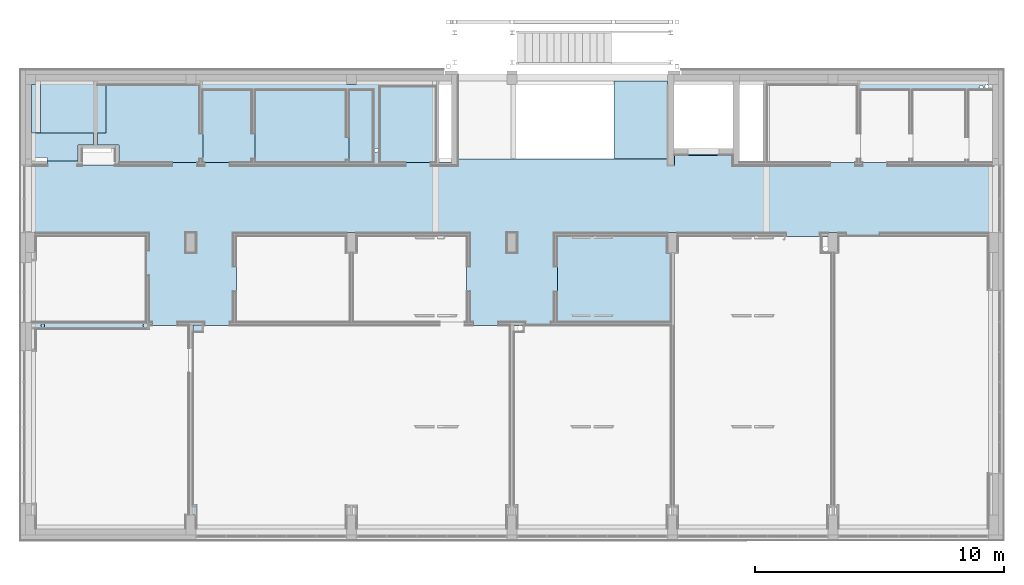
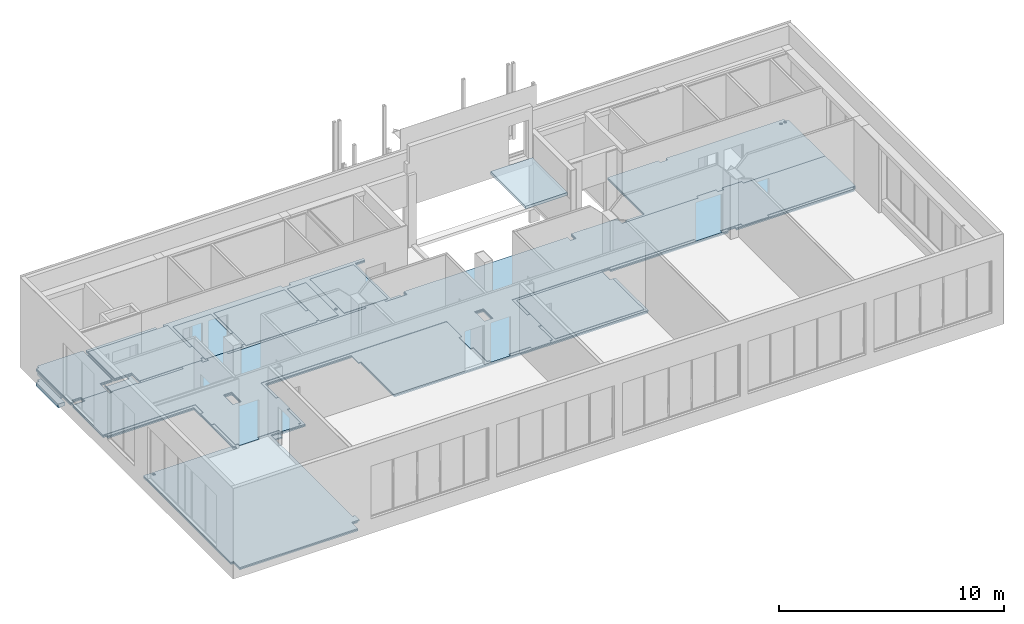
# One storey, part 14 of 29: 13 slabs, 2 openings.
"""IFC2X3 building model written with IfcOpenShell, lengths in centimetres."""

from ifc_helpers import new_model, entity, si_unit, converted_unit, derived_unit, direction, frame, frame_2d, origin, origin_2d_with_axis, place, context, subcontext, project, spatial, polyline, circle_curve, parameter, trimmed, segment, composite_curve, rectangle, outline, extrude, material, layer, layer_set, layer_usage, type_object, element, save


model = new_model("IFC2X3")

# Units and contexts
model_context = context("Model", 3, precision=0.001, world=origin(), true_north=direction((6.12303176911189e-17, 1.0)))
body_context = subcontext(model_context, "Body", "Model", "MODEL_VIEW")
ifc_project = project(units=[si_unit("LENGTHUNIT", "METRE", prefix="CENTI"), si_unit("AREAUNIT", "SQUARE_METRE"), si_unit("VOLUMEUNIT", "CUBIC_METRE"), converted_unit("PLANEANGLEUNIT", "DEGREE", entity("IfcRatioMeasure", 0.0174532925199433), si_unit("PLANEANGLEUNIT", "RADIAN"), dimensions=[0, 0, 0, 0, 0, 0, 0]), si_unit("MASSUNIT", "GRAM", prefix="KILO"), derived_unit("MASSDENSITYUNIT", [(si_unit("MASSUNIT", "GRAM", prefix="KILO"), 1), (si_unit("LENGTHUNIT", "METRE"), -3)]), derived_unit("MOMENTOFINERTIAUNIT", [(si_unit("LENGTHUNIT", "METRE"), 4)]), si_unit("TIMEUNIT", "SECOND"), si_unit("FREQUENCYUNIT", "HERTZ"), si_unit("THERMODYNAMICTEMPERATUREUNIT", "DEGREE_CELSIUS"), derived_unit("THERMALTRANSMITTANCEUNIT", [(si_unit("MASSUNIT", "GRAM", prefix="KILO"), 1), (si_unit("THERMODYNAMICTEMPERATUREUNIT", "KELVIN"), -1), (si_unit("TIMEUNIT", "SECOND"), -3)]), derived_unit("VOLUMETRICFLOWRATEUNIT", [(si_unit("LENGTHUNIT", "METRE"), 3), (si_unit("TIMEUNIT", "SECOND"), -1)]), si_unit("ELECTRICCURRENTUNIT", "AMPERE"), si_unit("ELECTRICVOLTAGEUNIT", "VOLT"), si_unit("POWERUNIT", "WATT"), si_unit("FORCEUNIT", "NEWTON", prefix="KILO"), si_unit("ILLUMINANCEUNIT", "LUX"), si_unit("LUMINOUSFLUXUNIT", "LUMEN"), si_unit("LUMINOUSINTENSITYUNIT", "CANDELA"), derived_unit("USERDEFINED", [(si_unit("MASSUNIT", "GRAM", prefix="KILO"), -1), (si_unit("LENGTHUNIT", "METRE"), -2), (si_unit("TIMEUNIT", "SECOND"), 3), (si_unit("LUMINOUSFLUXUNIT", "LUMEN"), 1)]), derived_unit("LINEARVELOCITYUNIT", [(si_unit("LENGTHUNIT", "METRE"), 1), (si_unit("TIMEUNIT", "SECOND"), -1)]), si_unit("PRESSUREUNIT", "PASCAL"), derived_unit("USERDEFINED", [(si_unit("LENGTHUNIT", "METRE"), -2), (si_unit("MASSUNIT", "GRAM", prefix="KILO"), 1), (si_unit("TIMEUNIT", "SECOND"), -2)]), derived_unit("LINEARFORCEUNIT", [(si_unit("MASSUNIT", "GRAM", prefix="KILO"), 1), (si_unit("LENGTHUNIT", "METRE"), 1), (si_unit("TIMEUNIT", "SECOND"), -2), (si_unit("LENGTHUNIT", "METRE"), -1)]), derived_unit("PLANARFORCEUNIT", [(si_unit("MASSUNIT", "GRAM", prefix="KILO"), 1), (si_unit("LENGTHUNIT", "METRE"), 1), (si_unit("TIMEUNIT", "SECOND"), -2), (si_unit("LENGTHUNIT", "METRE"), -2)])], contexts=[model_context])

# Site, building, storey
site_placement = place(None, origin())
site = spatial("IfcSite", under=ifc_project, at=site_placement, Name="Default", CompositionType="ELEMENT")
building_placement = place(site_placement, origin())
building = spatial("IfcBuilding", under=site, at=building_placement, CompositionType="ELEMENT")
storey_placement = place(building_placement, frame((0.0, 0.0, 545.0)))
storey = spatial("IfcBuildingStorey", under=building, at=storey_placement, Name="Poziom 1K +5,45", CompositionType="ELEMENT", Elevation=544.999999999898)

# Slabs
ifc_material_1 = material(Name="_Beton, C25/30")
ifc_layer_1 = layer(ifc_material_1, 15.0)
ifc_layer_set_1 = layer_set([ifc_layer_1], Name="Strop:Spocznik gr. 15cm")
ifc_layer_usage_1 = layer_usage(ifc_layer_set_1, "AXIS3", "POSITIVE", 0.0)
slab_type_1 = type_object("IfcSlabType", Name="Strop:Spocznik gr. 15cm", PredefinedType="FLOOR", material=ifc_layer_set_1)
slab_1_placement = place(storey_placement, origin())
element("IfcSlab", 1, at=slab_1_placement, inside=storey, type_object=slab_type_1, material=ifc_layer_usage_1, Name="Strop:Spocznik gr. 15cm", ObjectType="Strop:Spocznik gr. 15cm", PredefinedType="FLOOR", context=body_context, shape_type="SweptSolid", body=[
    extrude(rectangle(XDim=312.000000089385, YDim=215.0, at=frame_2d((0.0, 5.6843418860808e-14), x_axis=(1.0, 0.0))), frame((-461.765111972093, 1924.12745205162, 256.0), z_axis=(0.0, 0.0, -1.0), x_axis=(0.0, 1.0, 0.0)), (0.0, 0.0, 1.0), 15.0000000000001),
])
ifc_material_2 = material(Name="Styropian akustyczny")
ifc_layer_2 = layer(ifc_material_2, 7.0)
ifc_layer_set_2 = layer_set([ifc_layer_2], Name="Strop:EPS 80 7 cm")
ifc_layer_usage_2 = layer_usage(ifc_layer_set_2, "AXIS3", "POSITIVE", 0.0)
slab_type_2 = type_object("IfcSlabType", Name="Strop:EPS 80 7 cm", PredefinedType="FLOOR", material=ifc_layer_set_2)
slab_2_placement = place(storey_placement, origin())
element("IfcSlab", 2, at=slab_2_placement, inside=storey, type_object=slab_type_2, material=ifc_layer_usage_2, Name="Strop:EPS 80 7 cm", ObjectType="Strop:EPS 80 7 cm", PredefinedType="FLOOR", context=body_context, shape_type="SweptSolid", body=[
    extrude(outline(polyline([(1382.32696087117, -488.961197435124), (1397.32696087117, -488.961197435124), (1397.32696087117, -181.961196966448), (1382.32695262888, -181.961196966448), (1382.32695262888, -196.961197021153), (1335.82697165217, -196.961197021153), (1335.82697165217, -166.961197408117), (1397.32696087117, -166.961197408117), (1397.32696087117, 106.038802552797), (1382.32696087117, 106.038802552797), (1382.32696087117, 121.038802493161), (939.826218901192, 121.038802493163), (939.826218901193, 464.038802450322), (1397.32695811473, 464.03880245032), (1397.32695811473, 1241.03859703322), (1382.3269601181, 1241.03859703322), (1382.3269601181, 1296.03859703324), (777.326960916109, 1296.03859703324), (777.326960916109, 1241.03859703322), (747.326974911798, 1241.03859703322), (747.326974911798, 1203.59006927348), (749.826974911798, 1203.59006927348), (749.826974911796, 504.038802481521), (747.326974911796, 504.038802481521), (747.326974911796, 506.538802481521), (707.326969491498, 506.538802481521), (707.326969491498, 479.038802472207), (574.8269695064, 479.038802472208), (574.8269695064, 121.038802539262), (132.326963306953, 121.038802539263), (132.326963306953, 106.038802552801), (92.3269633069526, 106.038802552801), (92.3269633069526, 186.038802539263), (119.826974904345, 186.038802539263), (119.826974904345, 479.03880247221), (-1182.67302601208, 479.03880247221), (-1182.67302601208, 186.038802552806), (-1157.67303668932, 186.038802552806), (-1157.67303668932, 106.038802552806), (-1197.67303668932, 106.038802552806), (-1197.67303668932, 121.038802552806), (-1802.67303670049, 121.038802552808), (-1802.67303670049, 106.038802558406), (-1842.67303670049, 106.038802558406), (-1842.67303670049, 121.038802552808), (-2447.67304030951, 121.03880255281), (-2447.67304030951, 106.03880255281), (-2462.67302871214, 106.03880255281), (-2462.67304030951, -488.961197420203), (-2447.67303915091, -488.961197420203), (-2447.67303915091, -503.961195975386), (-1842.67303670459, -503.961195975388), (-1842.67303670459, -488.961197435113), (-1802.67303670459, -488.961197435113), (-1802.67303670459, -503.961197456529), (-1542.17303486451, -503.961197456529), (-1542.17303486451, -174.461197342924), (-1446.17315678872, -174.461197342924), (-1446.17315678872, -164.461197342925), (-1421.17303127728, -164.461197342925), (-1421.17303127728, -207.525937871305), (-1182.67303373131, -207.525937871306), (-1182.67303373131, -164.461197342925), (-1157.67303373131, -164.461197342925), (-1157.67303373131, -189.461197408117), (-315.173052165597, -189.46119740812), (-315.173052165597, -166.96119742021), (-290.173056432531, -166.96119742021), (-290.173056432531, -176.96119742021), (-239.174264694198, -176.96119742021), (-239.174264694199, -488.96119742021), (-290.173052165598, -488.96119742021), (-290.173052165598, -503.96119742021), (92.3269632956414, -503.961197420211), (92.3269632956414, -488.961197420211), (132.326968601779, -488.961197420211), (132.326968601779, -503.961197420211), (737.326966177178, -503.961197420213), (737.326966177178, -488.961197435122), (777.326963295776, -488.961197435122), (777.326963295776, -503.961197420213), (1133.32695882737, -503.961197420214), (1133.32695882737, -246.961196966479), (1045.82695875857, -246.961196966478), (1045.82695875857, -166.964845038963), (1060.82695875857, -166.964845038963), (1060.82695875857, -231.96119695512), (1078.32696200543, -231.96119695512), (1078.32696200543, -216.961196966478), (1193.32695876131, -216.961196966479), (1193.32695876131, -231.961196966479), (1195.82695876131, -231.961196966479), (1195.82695876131, -166.961197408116), (1210.82695876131, -166.961197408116), (1210.82695876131, -246.961196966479), (1148.32695882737, -246.961196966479), (1148.32695882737, -503.961197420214), (1382.32696087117, -503.961197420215), (1382.32696087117, -488.961197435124)]), holes=[polyline([(-552.673036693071, 106.038802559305), (-552.673036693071, 186.038802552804), (-512.673026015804, 186.038802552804), (-512.673026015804, 106.038802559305), (-552.673036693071, 106.038802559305)]), polyline([(737.326974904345, 106.038802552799), (737.326974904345, 186.038802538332), (777.326958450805, 186.038802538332), (777.326958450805, 106.038802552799), (737.326974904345, 106.038802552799)]), composite_curve([segment(trimmed(circle_curve(frame_2d((222.326974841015, -481.461197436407), x_axis=(-1.0, 0.0)), 7.50000000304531), [parameter(180.0)], [parameter(0.0)], True, "PARAMETER"), False, "CONTINUOUS"), segment(trimmed(circle_curve(frame_2d((222.326974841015, -481.461197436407), x_axis=(-1.0, 0.0)), 7.50000000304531), [parameter(0.0)], [parameter(180.0)], True, "PARAMETER"), False, "CONTINUOUS")], self_intersect=False), composite_curve([segment(trimmed(circle_curve(frame_2d((12.3269717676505, -224.46119741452), x_axis=(-1.0, 0.0)), 7.50000000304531), [parameter(180.0)], [parameter(0.0)], True, "PARAMETER"), False, "CONTINUOUS"), segment(trimmed(circle_curve(frame_2d((12.3269717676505, -224.46119741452), x_axis=(-1.0, 0.0)), 7.50000000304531), [parameter(0.0)], [parameter(180.0)], True, "PARAMETER"), False, "CONTINUOUS")], self_intersect=False), composite_curve([segment(trimmed(circle_curve(frame_2d((-2440.17302516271, -481.461197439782), x_axis=(-1.0, 0.0)), 7.49999998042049), [parameter(180.0)], [parameter(0.0)], True, "PARAMETER"), False, "CONTINUOUS"), segment(trimmed(circle_curve(frame_2d((-2440.17302516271, -481.461197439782), x_axis=(-1.0, 0.0)), 7.49999998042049), [parameter(0.0)], [parameter(180.0)], True, "PARAMETER"), False, "CONTINUOUS")], self_intersect=False), composite_curve([segment(trimmed(circle_curve(frame_2d((-2417.71800819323, -478.915202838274), x_axis=(-1.0, 0.0)), 7.49999998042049), [parameter(180.0)], [parameter(0.0)], True, "PARAMETER"), False, "CONTINUOUS"), segment(trimmed(circle_curve(frame_2d((-2417.71800819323, -478.915202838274), x_axis=(-1.0, 0.0)), 7.49999998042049), [parameter(0.0)], [parameter(180.0)], True, "PARAMETER"), False, "CONTINUOUS")], self_intersect=False)]), frame((-1511.9381457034, 1576.16625463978, 0.0), z_axis=(0.0, 0.0, 1.0), x_axis=(-1.0, 0.0, 0.0)), (0.0, 0.0, 1.0), 7.00000000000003),
])
ifc_material_3 = material(Name="Wylewka")
ifc_layer_3 = layer(ifc_material_3, 6.0)
ifc_layer_set_3 = layer_set([ifc_layer_3], Name="Strop:Wylewka betonowa gr. 6cm")
ifc_layer_usage_3 = layer_usage(ifc_layer_set_3, "AXIS3", "POSITIVE", 0.0)
slab_type_3 = type_object("IfcSlabType", Name="Strop:Wylewka betonowa gr. 6cm", PredefinedType="FLOOR", material=ifc_layer_set_3)
slab_3_placement = place(storey_placement, origin())
element("IfcSlab", 3, at=slab_3_placement, inside=storey, type_object=slab_type_3, material=ifc_layer_usage_3, Name="Strop:Wylewka betonowa gr. 6cm", ObjectType="Strop:Wylewka betonowa gr. 6cm", PredefinedType="FLOOR", context=body_context, shape_type="SweptSolid", body=[
    extrude(outline(polyline([(1382.64765951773, -517.87108891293), (1397.64765951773, -517.87108891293), (1397.64765951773, -210.871088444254), (1382.64765127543, -210.871088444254), (1382.64765127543, -225.871088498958), (1336.14767029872, -225.871088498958), (1336.14767029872, -195.871088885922), (1397.64765951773, -195.871088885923), (1397.64765951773, 77.1289110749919), (1382.64765951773, 77.1289110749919), (1382.64765951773, 92.1289110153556), (940.14691754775, 92.1289110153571), (940.14691754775, 435.128910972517), (1397.64765676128, 435.128910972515), (1397.64765676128, 1212.12870555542), (1382.64765876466, 1212.12870555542), (1382.64765876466, 1267.12870555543), (777.647659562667, 1267.12870555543), (777.647659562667, 1212.12870555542), (737.647673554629, 1212.12870555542), (737.647673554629, 1172.12891110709), (747.647673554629, 1172.12891110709), (747.647673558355, 1174.68017779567), (750.147673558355, 1174.68017779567), (750.147673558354, 447.628910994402), (715.147668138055, 447.628910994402), (715.147668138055, 450.128911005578), (575.147668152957, 450.128911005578), (575.147668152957, 92.1289110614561), (132.647673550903, 92.1289110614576), (132.647673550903, 157.128911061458), (120.147673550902, 157.128911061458), (120.147673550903, 450.128911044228), (-1184.85232644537, 450.128911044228), (-1184.85232644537, 157.128911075), (-1157.35233804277, 157.128911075), (-1157.35233804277, 77.1289110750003), (-1197.35233804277, 77.1289110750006), (-1197.35233804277, 92.1289110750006), (-1802.35233805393, 92.1289110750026), (-1802.35233805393, 77.1289110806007), (-1842.35233805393, 77.1289110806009), (-1842.35233805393, 92.1289110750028), (-2447.35234166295, 92.1289110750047), (-2447.35234166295, 77.1289110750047), (-2462.35234166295, 77.1289110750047), (-2462.35234166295, -517.871088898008), (-2447.35233811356, -517.871088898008), (-2447.35233811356, -532.871087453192), (-1842.35233805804, -532.871087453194), (-1842.35233805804, -517.871088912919), (-1802.35233805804, -517.871088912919), (-1802.35233805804, -532.871087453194), (-1541.85245814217, -532.871087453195), (-1541.85245814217, -205.871088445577), (-1445.85245814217, -205.871088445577), (-1445.85245814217, -195.871088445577), (-1420.85233263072, -195.871088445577), (-1420.85233263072, -236.435829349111), (-1182.35233508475, -236.435829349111), (-1182.35233508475, -195.871087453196), (-1157.35233508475, -195.871087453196), (-1157.35233508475, -218.371088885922), (-314.85235351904, -218.371088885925), (-314.85235351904, -195.871088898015), (-289.852357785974, -195.871088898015), (-289.852357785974, -205.871088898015), (-238.853566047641, -205.871088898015), (-238.853566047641, -517.871088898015), (-289.852353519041, -517.871088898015), (-289.852353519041, -532.871088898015), (92.6476619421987, -532.871088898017), (92.6476619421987, -517.871088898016), (132.647667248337, -517.871088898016), (132.647667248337, -532.871088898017), (737.647661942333, -532.871088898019), (737.647661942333, -517.871088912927), (777.647661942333, -517.871088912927), (777.647661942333, -532.871088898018), (1133.64765747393, -532.87108889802), (1133.64765747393, -275.871088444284), (1046.14765740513, -275.871088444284), (1046.14765740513, -195.874736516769), (1061.14765740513, -195.874736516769), (1061.14765740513, -260.871088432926), (1078.64766065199, -260.871088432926), (1078.64766065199, -245.871088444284), (1193.64765740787, -245.871088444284), (1193.64765740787, -260.871088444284), (1196.14765740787, -260.871088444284), (1196.14765740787, -195.87108859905), (1211.14765740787, -195.87108859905), (1211.14765740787, -275.871088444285), (1148.64765747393, -275.871088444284), (1148.64765747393, -532.87108889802), (1382.64765951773, -532.871088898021), (1382.64765951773, -517.87108891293)]), holes=[composite_curve([segment(trimmed(circle_curve(frame_2d((-2417.27550324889, -507.927790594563), x_axis=(-1.0, 0.0)), 7.50000000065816), [parameter(180.0)], [parameter(0.0)], True, "PARAMETER"), False, "CONTINUOUS"), segment(trimmed(circle_curve(frame_2d((-2417.27550324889, -507.927790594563), x_axis=(-1.0, 0.0)), 7.50000000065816), [parameter(0.0)], [parameter(180.0)], True, "PARAMETER"), False, "CONTINUOUS")], self_intersect=False), composite_curve([segment(trimmed(circle_curve(frame_2d((940.14691754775, 450.128911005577), x_axis=(-1.0, 0.0)), 10.0), [parameter(180.0)], [parameter(0.0)], True, "PARAMETER"), False, "CONTINUOUS"), segment(trimmed(circle_curve(frame_2d((940.14691754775, 450.128911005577), x_axis=(-1.0, 0.0)), 10.0), [parameter(0.0)], [parameter(180.0)], True, "PARAMETER"), False, "CONTINUOUS")], self_intersect=False), composite_curve([segment(trimmed(circle_curve(frame_2d((1352.6999459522, 450.223891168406), x_axis=(-1.0, 0.0)), 7.49946160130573), [parameter(180.0)], [parameter(0.0)], True, "PARAMETER"), False, "CONTINUOUS"), segment(trimmed(circle_curve(frame_2d((1352.6999459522, 450.223891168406), x_axis=(-1.0, 0.0)), 7.49946160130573), [parameter(0.0)], [parameter(180.0)], True, "PARAMETER"), False, "CONTINUOUS")], self_intersect=False), composite_curve([segment(trimmed(circle_curve(frame_2d((12.6476704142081, -253.371088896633), x_axis=(-1.0, 0.0)), 7.50000000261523), [parameter(180.0)], [parameter(0.0)], True, "PARAMETER"), False, "CONTINUOUS"), segment(trimmed(circle_curve(frame_2d((12.6476704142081, -253.371088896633), x_axis=(-1.0, 0.0)), 7.50000000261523), [parameter(0.0)], [parameter(180.0)], True, "PARAMETER"), False, "CONTINUOUS")], self_intersect=False), composite_curve([segment(trimmed(circle_curve(frame_2d((-2439.85232651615, -510.371088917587), x_axis=(-1.0, 0.0)), 7.50000000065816), [parameter(180.0)], [parameter(0.0)], True, "PARAMETER"), False, "CONTINUOUS"), segment(trimmed(circle_curve(frame_2d((-2439.85232651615, -510.371088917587), x_axis=(-1.0, 0.0)), 7.50000000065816), [parameter(0.0)], [parameter(180.0)], True, "PARAMETER"), False, "CONTINUOUS")], self_intersect=False), polyline([(-552.352338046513, 77.1289110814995), (-552.352338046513, 157.128911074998), (-512.352327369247, 157.128911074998), (-512.352327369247, 77.1289110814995), (-552.352338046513, 77.1289110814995)]), polyline([(737.647673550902, 77.1289110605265), (737.647673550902, 157.128911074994), (777.647673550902, 157.128911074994), (777.647673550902, 77.1289110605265), (737.647673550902, 77.1289110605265)])]), frame((-1511.61744705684, 1547.25636316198, 7.0), z_axis=(0.0, 0.0, 1.0), x_axis=(-1.0, 0.0, 0.0)), (0.0, 0.0, 1.0), 6.00000000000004),
])
ifc_material_4 = material(Name="Wykladzina winylowa (w plytkach) na kleju")
ifc_layer_4 = layer(ifc_material_4, 2.0)
ifc_layer_set_4 = layer_set([ifc_layer_4], Name="Strop:Wykladzina winylowa (w plytkach) na kleju gr.2cm 2")
ifc_layer_usage_4 = layer_usage(ifc_layer_set_4, "AXIS3", "POSITIVE", 0.0)
slab_type_4 = type_object("IfcSlabType", Name="Strop:Wykladzina winylowa (w plytkach) na kleju gr.2cm 2", PredefinedType="FLOOR", material=ifc_layer_set_4)
slab_4_placement = place(storey_placement, origin())
element("IfcSlab", 4, at=slab_4_placement, inside=storey, type_object=slab_type_4, material=ifc_layer_usage_4, Name="Strop:Wykladzina winylowa (w plytkach) na kleju gr.2cm 2", ObjectType="Strop:Wykladzina winylowa (w plytkach) na kleju gr.2cm 2", PredefinedType="FLOOR", context=body_context, shape_type="SweptSolid", body=[
    extrude(outline(polyline([(-206.166666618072, -298.33333359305), (136.833333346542, -298.33333359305), (136.833333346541, 141.666672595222), (69.3333332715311, 141.666672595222), (69.3333332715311, 156.666660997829), (-206.166666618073, 156.666660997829), (-206.166666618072, -298.33333359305)])), frame((-498.431781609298, 1318.29411881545, 15.0), z_axis=(0.0, 0.0, -1.0), x_axis=(0.0, 1.0, 0.0)), (0.0, 0.0, 1.0), 1.99999999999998),
])
ifc_material_5 = material(Name="Gres jasny")
ifc_layer_5 = layer(ifc_material_5, 2.0)
ifc_layer_set_5 = layer_set([ifc_layer_5], Name="Strop:Gres na kleju gr. 2cm techniczne")
ifc_layer_usage_5 = layer_usage(ifc_layer_set_5, "AXIS3", "POSITIVE", 0.0)
slab_type_5 = type_object("IfcSlabType", Name="Strop:Gres na kleju gr. 2cm techniczne", PredefinedType="FLOOR")
slab_5_placement = place(storey_placement, frame((-2909.26510657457, 1743.12745160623, 13.0)))
element("IfcSlab", 5, at=slab_5_placement, inside=storey, type_object=slab_type_5, material=ifc_layer_usage_5, Name="Strop:Gres na kleju gr. 2cm techniczne", ObjectType="Strop:Gres na kleju gr. 2cm techniczne", PredefinedType="FLOOR", context=body_context, shape_type="SweptSolid", body=[
    extrude(outline(polyline([(-81.9999881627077, 168.500000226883), (-81.9999881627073, -88.5000000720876), (-19.5000010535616, -88.5000000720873), (-19.5000010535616, -153.500000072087), (105.500011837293, -153.500000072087), (105.500011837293, -138.500000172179), (151.999992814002, -138.500000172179), (151.999992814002, -153.500000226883), (167.0000010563, -153.500000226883), (167.0000010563, 153.500000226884), (152.000003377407, 153.500000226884), (152.000003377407, 168.500000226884), (-81.9999881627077, 168.500000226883)])), frame((167.0000010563, 168.500000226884, 2.0), z_axis=(0.0, 0.0, -1.0), x_axis=(-1.0, 0.0, 0.0)), (0.0, 0.0, 1.0), 1.99999999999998),
])

# Slab, openings
ifc_material_6 = material(Name="wykladzina pcv")
ifc_layer_6 = layer(ifc_material_6, 2.0)
ifc_layer_set_6 = layer_set([ifc_layer_6], Name="Strop:Wykładzina PCV komunikacja")
ifc_layer_usage_6 = layer_usage(ifc_layer_set_6, "AXIS3", "POSITIVE", 0.0)
slab_type_6 = type_object("IfcSlabType", Name="Strop:Wykładzina PCV komunikacja", PredefinedType="FLOOR", material=ifc_layer_set_6)
slab_6_placement = place(storey_placement, frame((-2909.26510525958, 1097.12745211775, 13.0)))
slab_6 = element("IfcSlab", 6, at=slab_6_placement, inside=storey, type_object=slab_type_6, material=ifc_layer_usage_6, Name="Strop:Wykładzina PCV komunikacja", ObjectType="Strop:Wykładzina PCV komunikacja", PredefinedType="FLOOR", context=body_context, shape_type="SweptSolid", body=[
    extrude(outline(polyline([(1929.99999413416, 298.967629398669), (1865.99999333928, 298.967629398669), (1865.99999333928, 318.967629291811), (1743.49999333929, 318.96762929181), (1743.49999333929, 298.967629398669), (1725.99996589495, 298.967629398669), (1725.99996589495, 303.96762929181), (1595.99999333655, 303.96762929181), (1595.99999333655, 298.96762929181), (1364.49999333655, 298.967629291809), (1364.49999333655, 313.967629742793), (1264.49999333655, 313.967629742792), (1264.49999333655, 298.967629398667), (1234.49999333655, 298.967629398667), (1234.49999333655, 313.967629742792), (1134.49999333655, 313.967629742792), (1134.49999333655, 298.967629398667), (426.000006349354, 298.967629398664), (426.000006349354, 313.96762974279), (326.000006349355, 313.967629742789), (326.000006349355, 298.967629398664), (215.00000409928, 298.967629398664), (215.00000409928, 326.467629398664), (-622.499999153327, 326.467629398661), (-622.499999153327, 298.967629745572), (-652.499999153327, 298.967629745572), (-652.499999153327, 342.032370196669), (-885.999996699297, 342.032370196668), (-885.999996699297, 298.967629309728), (-1278.49999056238, 298.967629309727), (-1278.49999056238, 313.967629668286), (-1378.49999056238, 313.967629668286), (-1378.49999056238, 298.967629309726), (-1408.49999056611, 298.967629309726), (-1408.49999056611, 313.967629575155), (-1508.49999056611, 313.967629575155), (-1508.49999056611, 298.967629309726), (-1929.99999413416, 298.967629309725), (-1929.99999413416, 30.9676297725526), (-1477.49999622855, 30.9676297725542), (-1477.49999622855, 15.9676298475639), (-1342.49999622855, 15.9676298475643), (-1342.49999622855, 30.9676297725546), (-1237.49998480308, 30.967629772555), (-1237.49998480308, 15.9676297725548), (-1102.49998480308, 15.9676297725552), (-1102.49998480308, 30.9676297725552), (-167.499995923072, 30.9676297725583), (-167.499995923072, -105.532370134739), (-182.499995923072, -105.532370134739), (-182.499995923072, -205.532370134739), (-167.499995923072, -205.532370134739), (-167.499995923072, -327.032370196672), (-154.999999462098, -327.032370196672), (-154.999999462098, -342.032370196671), (-54.9999994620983, -342.032370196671), (-54.9999994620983, -327.032370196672), (55.0000005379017, -327.032370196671), (55.0000005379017, -342.032370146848), (155.000000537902, -342.032370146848), (155.000000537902, -327.032370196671), (167.50001488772, -327.032370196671), (167.50001488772, -205.032370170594), (182.500014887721, -205.032370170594), (182.50001488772, -105.032370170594), (167.500014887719, -105.032370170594), (167.500014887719, 30.9676297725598), (1122.50000407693, 30.9676297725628), (1122.50000407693, -105.032370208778), (1107.50000408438, -105.032370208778), (1107.50000408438, -205.032370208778), (1122.50000407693, -205.032370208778), (1122.50000407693, -327.03237012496), (1135.0000040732, -327.03237012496), (1135.0000040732, -342.032370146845), (1235.0000040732, -342.032370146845), (1235.0000040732, -327.03237012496), (1345.0000148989, -327.032370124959), (1345.0000148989, -342.032370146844), (1445.0000148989, -342.032370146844), (1445.0000148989, -327.032370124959), (1457.50001489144, -327.032370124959), (1457.50001489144, -140.440817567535), (1472.49925347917, -140.440817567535), (1472.49925347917, -40.4408175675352), (1457.50001488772, -40.4408175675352), (1457.50001488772, 30.9676297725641), (1929.99999413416, 30.9676297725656), (1929.99999413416, 298.967629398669)])), frame((1929.99999413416, 342.032370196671, 2.0), z_axis=(0.0, 0.0, -1.0), x_axis=(-1.0, 0.0, 0.0)), (0.0, 0.0, 1.0), 1.99999999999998),
])
opening_1_placement = place(slab_6_placement, frame((639.999984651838, 333.0, 2.0)))
element("IfcOpeningElement", 7, at=opening_1_placement, cuts=slab_6, Name="Strop:Wykładzina PCV komunikacja:2", ObjectType="Opening", context=body_context, shape_type="SweptSolid", body=[
    extrude(rectangle(XDim=45.0000000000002, YDim=84.9999999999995, at=origin_2d_with_axis()), frame((0.0, 0.0, 0.0), z_axis=(0.0, 0.0, -1.0), x_axis=(1.0, 0.0, 0.0)), (0.0, 0.0, 1.0), 1.99999999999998),
])
opening_2_placement = place(slab_6_placement, frame((1930.00055291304, 333.0, 2.0)))
element("IfcOpeningElement", 8, at=opening_2_placement, cuts=slab_6, Name="Strop:Wykładzina PCV komunikacja:3", ObjectType="Opening", context=body_context, shape_type="SweptSolid", body=[
    extrude(rectangle(XDim=45.0011133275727, YDim=84.9999999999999, at=origin_2d_with_axis()), frame((0.0, 0.0, 0.0), z_axis=(0.0, 0.0, -1.0), x_axis=(1.0, 0.0, 0.0)), (0.0, 0.0, 1.0), 1.99999999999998),
])

# Slabs
ifc_material_7 = material(Name="Wełna skalna")
ifc_layer_7 = layer(ifc_material_7, 20.0)
ifc_layer_set_7 = layer_set([ifc_layer_7], Name="Strop:Wełna mineralna gr. 20cm")
ifc_layer_usage_7 = layer_usage(ifc_layer_set_7, "AXIS3", "POSITIVE", 0.0)
slab_type_7 = type_object("IfcSlabType", Name="Strop:Wełna mineralna gr. 20cm", PredefinedType="FLOOR", material=ifc_layer_set_7)
slab_7_placement = place(storey_placement, origin())
element("IfcSlab", 9, at=slab_7_placement, inside=storey, type_object=slab_type_7, material=ifc_layer_usage_7, Name="Strop:Wełna mineralna gr. 20cm", ObjectType="Strop:Wełna mineralna gr. 20cm", PredefinedType="FLOOR", context=body_context, shape_type="SweptSolid", body=[
    extrude(rectangle(XDim=209.9559215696, YDim=284.000001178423, at=frame_2d((1.06581410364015e-13, 0.0), x_axis=(1.0, 0.0))), frame((-2752.26510830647, 1975.1494912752, -15.0), z_axis=(0.0, 0.0, -1.0), x_axis=(0.0, 1.0, 0.0)), (0.0, 0.0, 1.0), 20.0),
])
ifc_layer_usage_8 = layer_usage(ifc_layer_set_7, "AXIS3", "POSITIVE", 0.0)
slab_type_8 = type_object("IfcSlabType", Name="Strop:Wełna mineralna gr. 20cm", PredefinedType="FLOOR", material=ifc_layer_set_7)
slab_8_placement = place(storey_placement, origin())
element("IfcSlab", 10, at=slab_8_placement, inside=storey, type_object=slab_type_8, material=ifc_layer_usage_8, Name="Strop:Wełna mineralna gr. 20cm", ObjectType="Strop:Wełna mineralna gr. 20cm", PredefinedType="FLOOR", context=body_context, shape_type="SweptSolid", body=[
    extrude(outline(polyline([(-134.970614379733, -16.6666642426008), (59.9853071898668, -16.6666642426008), (59.9853071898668, -1.66666787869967), (74.9853071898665, -1.66666787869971), (74.9853071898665, 18.3333321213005), (-134.970614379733, 18.3333321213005), (-134.970614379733, -16.6666642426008)])), frame((-2892.59844101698, 2005.14214487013, -60.0), z_axis=(0.0, 0.0, -1.0), x_axis=(0.0, 1.0, 0.0)), (0.0, 0.0, 1.0), 20.0),
])
ifc_material_8 = material(Name="Gres")
ifc_layer_8 = layer(ifc_material_8, 2.0)
ifc_layer_set_8 = layer_set([ifc_layer_8], Name="Strop:Gres na kleju gr. 2cm")
ifc_layer_usage_9 = layer_usage(ifc_layer_set_8, "AXIS3", "POSITIVE", 0.0)
slab_type_9 = type_object("IfcSlabType", Name="Strop:Gres na kleju gr. 2cm", PredefinedType="FLOOR", material=ifc_layer_set_8)
slab_9_placement = place(storey_placement, origin())
element("IfcSlab", 11, at=slab_9_placement, inside=storey, type_object=slab_type_9, material=ifc_layer_usage_9, Name="Strop:Gres na kleju gr. 2cm", ObjectType="Strop:Gres na kleju gr. 2cm", PredefinedType="FLOOR", context=body_context, shape_type="SweptSolid", body=[
    extrude(outline(polyline([(-31.9000003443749, -265.899992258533), (207.600000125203, -265.899992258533), (207.600000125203, 143.099994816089), (13.1000000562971, 143.099994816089), (13.1000000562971, 158.099994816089), (-86.8999999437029, 158.099994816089), (-86.899999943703, 143.099994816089), (-101.899999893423, 143.09999481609), (-101.899999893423, -178.399992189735), (-31.9000003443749, -178.399992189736), (-31.9000003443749, -265.899992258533)])), frame((-2379.36511227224, 1855.02745195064, 15.0), z_axis=(0.0, 0.0, -1.0), x_axis=(0.0, 1.0, 0.0)), (0.0, 0.0, 1.0), 1.99999999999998),
])
ifc_layer_usage_10 = layer_usage(ifc_layer_set_8, "AXIS3", "POSITIVE", 0.0)
slab_type_10 = type_object("IfcSlabType", Name="Strop:Gres na kleju gr. 2cm", PredefinedType="FLOOR", material=ifc_layer_set_8)
slab_10_placement = place(storey_placement, origin())
element("IfcSlab", 12, at=slab_10_placement, inside=storey, type_object=slab_type_10, material=ifc_layer_usage_10, Name="Strop:Gres na kleju gr. 2cm", ObjectType="Strop:Gres na kleju gr. 2cm", PredefinedType="FLOOR", context=body_context, shape_type="SweptSolid", body=[
    extrude(outline(polyline([(-150.0, -184.625000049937), (45.0, -184.625000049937), (45.0, -10.1249999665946), (60.0, -10.1249999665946), (60.0, 89.8750000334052), (45.0, 89.8750000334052), (45.0, 104.874999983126), (-150.0, 104.874999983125), (-150.0, -184.625000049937)])), frame((-2071.26511746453, 1858.00245204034, 15.0), z_axis=(0.0, 0.0, -1.0), x_axis=(1.0, 0.0, 0.0)), (0.0, 0.0, 1.0), 1.99999999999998),
])
ifc_layer_usage_11 = layer_usage(ifc_layer_set_8, "AXIS3", "POSITIVE", 0.0)
slab_type_11 = type_object("IfcSlabType", Name="Strop:Gres na kleju gr. 2cm", PredefinedType="FLOOR", material=ifc_layer_set_8)
slab_11_placement = place(storey_placement, origin())
element("IfcSlab", 13, at=slab_11_placement, inside=storey, type_object=slab_type_11, material=ifc_layer_usage_11, Name="Strop:Gres na kleju gr. 2cm", ObjectType="Strop:Gres na kleju gr. 2cm", PredefinedType="FLOOR", context=body_context, shape_type="SweptSolid", body=[
    extrude(outline(polyline([(-276.0, -189.625000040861), (87.0, -189.625000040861), (87.0, -0.124999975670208), (102.0, -0.124999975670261), (102.0, 89.8750000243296), (87.0, 89.8750000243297), (87.0, 99.874999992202), (-276.0, 99.8749999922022), (-276.0, -189.625000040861)])), frame((-1735.26511746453, 1853.00245204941, 15.0), z_axis=(0.0, 0.0, -1.0), x_axis=(1.0, 0.0, 0.0)), (0.0, 0.0, 1.0), 1.99999999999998),
])
ifc_layer_usage_12 = layer_usage(ifc_layer_set_8, "AXIS3", "POSITIVE", 0.0)
slab_type_12 = type_object("IfcSlabType", Name="Strop:Gres na kleju gr. 2cm", PredefinedType="FLOOR", material=ifc_layer_set_8)
slab_12_placement = place(storey_placement, origin())
element("IfcSlab", 14, at=slab_12_placement, inside=storey, type_object=slab_type_12, material=ifc_layer_usage_12, Name="Strop:Gres na kleju gr. 2cm", ObjectType="Strop:Gres na kleju gr. 2cm", PredefinedType="FLOOR", context=body_context, shape_type="SweptSolid", body=[
    extrude(rectangle(XDim=93.9999999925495, YDim=289.500000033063, at=frame_2d((1.06581410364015e-13, -2.1316282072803e-13), x_axis=(1.0, 0.0))), frame((-1586.26511746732, 1897.87745207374, 15.0), z_axis=(0.0, 0.0, -1.0), x_axis=(1.0, 0.0, 0.0)), (0.0, 0.0, 1.0), 1.99999999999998),
])
ifc_layer_usage_13 = layer_usage(ifc_layer_set_8, "AXIS3", "POSITIVE", 0.0)
slab_type_13 = type_object("IfcSlabType", Name="Strop:Gres na kleju gr. 2cm", PredefinedType="FLOOR", material=ifc_layer_set_8)
slab_13_placement = place(storey_placement, origin())
element("IfcSlab", 15, at=slab_13_placement, inside=storey, type_object=slab_type_13, material=ifc_layer_usage_13, Name="Strop:Gres na kleju gr. 2cm", ObjectType="Strop:Gres na kleju gr. 2cm", PredefinedType="FLOOR", context=body_context, shape_type="SweptSolid", body=[
    extrude(rectangle(XDim=304.500000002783, YDim=224.000000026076, at=origin_2d_with_axis()), frame((-1397.26511746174, 1905.3774520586, 15.0), z_axis=(0.0, 0.0, -1.0), x_axis=(0.0, 1.0, 0.0)), (0.0, 0.0, 1.0), 1.99999999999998),
])

save(model, "model.ifc")
